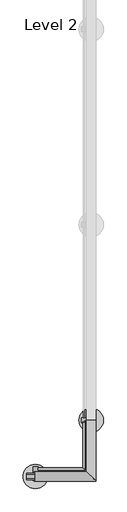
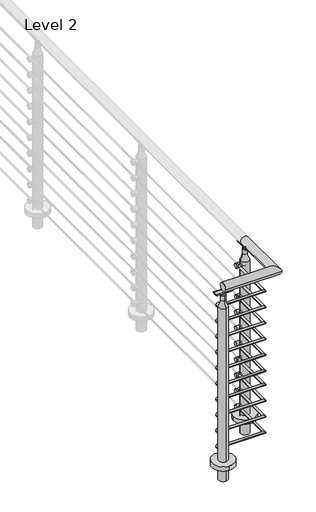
# One storey, part 8 of 21: 1 railing.
"""IFC4 building model written with IfcOpenShell, lengths in millimetres."""

from ifc_helpers import new_model, si_unit, point, frame, frame_2d, origin, place, context, project, spatial, polyline, circle_curve, ellipse_curve, trimmed, segment, composite_curve, outline, extrude, element, save
from ifc_brep_helpers import plane_surface, cylinder_surface, revolved_surface, advanced_brep

model = new_model("IFC4")

# Units and contexts
model_context = context("Model", 3, world=origin())
ifc_project = project(units=[si_unit("LENGTHUNIT", "METRE", prefix="MILLI")], contexts=[model_context])

# Site, building, storey
site = spatial("IfcSite", under=ifc_project)
building = spatial("IfcBuilding", under=site)
storey = spatial("IfcBuildingStorey", under=building, Name="Level 2", Elevation=3048.0)

# Railing
placement = place(None, origin())
element("IfcRailing", 1, ObjectType="VIVA-CIRCA-Multiline-Cable-Core Mount-Corner", at=placement, inside=storey, context=model_context, shape_type="SolidModel", body=[
    advanced_brep(
    [(70803.1810647, -68730.3034511, 4102.1), (70803.1810647, -68679.5034511, 4102.1), (71120.6810647, -68730.3034511, 4102.1), (71069.8810647, -68679.5034511, 4102.1), (71120.6810647, -68412.8034511, 4102.1), (71069.8810647, -68412.8034511, 4102.1)],
    [
        (0, 1, circle_curve(frame((70803.1810647, -68704.9034511, 4102.1), z_axis=(-1.0, 0.0, 0.0), x_axis=(0.0, 1.0, 0.0)), 25.4)),
        (1, 0, circle_curve(frame((70803.1810647, -68704.9034511, 4102.1), z_axis=(-1.0, 0.0, 0.0), x_axis=(0.0, 1.0, 0.0)), 25.4)),
        (0, 2),
        (2, 3, ellipse_curve(frame((71095.2810647, -68704.9034511, 4102.1), z_axis=(-0.7071067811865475, -0.7071067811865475, 0.0), x_axis=(-0.7071067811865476, 0.7071067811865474, 0.0)), 35.9210245, 25.4)),
        (3, 1),
        (3, 2, ellipse_curve(frame((71095.2810647, -68704.9034511, 4102.1), z_axis=(-0.7071067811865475, -0.7071067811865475, 0.0), x_axis=(-0.7071067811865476, 0.7071067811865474, 0.0)), 35.9210245, 25.4)),
        (4, 5, circle_curve(frame((71095.2810647, -68412.8034511, 4102.1), z_axis=(0.0, 1.0, 0.0), x_axis=(-1.0, 0.0, 0.0)), 25.4)),
        (5, 4, circle_curve(frame((71095.2810647, -68412.8034511, 4102.1), z_axis=(0.0, 1.0, 0.0), x_axis=(-1.0, 0.0, 0.0)), 25.4)),
        (2, 4),
        (5, 3),
    ],
    [
        plane_surface(frame((70803.1810647, -68704.9034511, 4127.5), z_axis=(-1.0, 0.0, 0.0), x_axis=(0.0, 1.0, 0.0))),
        cylinder_surface(frame((70803.1810647, -68704.9034511, 4102.1), z_axis=(-1.0, 0.0, 0.0), x_axis=(0.0, 1.0, 0.0)), 25.4),
        plane_surface(frame((71095.2810647, -68412.8034511, 4127.5), z_axis=(0.0, 1.0, 0.0), x_axis=(0.0, 0.0, 1.0))),
        cylinder_surface(frame((71095.2810647, -68704.9034511, 4102.1), z_axis=(0.0, -1.0, 0.0), x_axis=(-1.0, 0.0, 0.0)), 25.4),
    ],
    [
        (0, [[1, 2]]),
        (1, [[-1, 3, 4, 5]]),
        (1, [[-2, -5, 6, -3]]),
        (2, [[7, 8]]),
        (3, [[-4, 9, -8, 10]]),
        (3, [[-6, -10, -7, -9]]),
    ],
),
    advanced_brep(
    [(70803.1810647, -68660.4534511, 3968.75), (70803.1810647, -68673.1534511, 3968.75), (71050.8310647, -68660.4534511, 3968.75), (71063.5310647, -68673.1534511, 3968.75), (71050.8310647, -68412.8034511, 3968.75), (71063.5310647, -68412.8034511, 3968.75)],
    [
        (0, 1, circle_curve(frame((70803.1810647, -68666.8034511, 3968.75), z_axis=(-1.0, 0.0, 0.0), x_axis=(0.0, -1.0, 0.0)), 6.35)),
        (1, 0, circle_curve(frame((70803.1810647, -68666.8034511, 3968.75), z_axis=(-1.0, 0.0, 0.0), x_axis=(0.0, -1.0, 0.0)), 6.35)),
        (0, 2),
        (2, 3, ellipse_curve(frame((71057.1810647, -68666.8034511, 3968.75), z_axis=(-0.7071067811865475, -0.7071067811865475, 0.0), x_axis=(-0.7071067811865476, 0.7071067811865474, 0.0)), 8.9802561, 6.35)),
        (3, 1),
        (3, 2, ellipse_curve(frame((71057.1810647, -68666.8034511, 3968.75), z_axis=(-0.7071067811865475, -0.7071067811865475, 0.0), x_axis=(-0.7071067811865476, 0.7071067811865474, 0.0)), 8.9802561, 6.35)),
        (4, 5, circle_curve(frame((71057.1810647, -68412.8034511, 3968.75), z_axis=(0.0, 1.0, 0.0), x_axis=(1.0, 0.0, 0.0)), 6.35)),
        (5, 4, circle_curve(frame((71057.1810647, -68412.8034511, 3968.75), z_axis=(0.0, 1.0, 0.0), x_axis=(1.0, 0.0, 0.0)), 6.35)),
        (2, 4),
        (5, 3),
    ],
    [
        plane_surface(frame((70803.1810647, -68666.8034511, 3975.1), z_axis=(-1.0, 0.0, 0.0), x_axis=(0.0, 1.0, 0.0))),
        cylinder_surface(frame((70803.1810647, -68666.8034511, 3968.75), z_axis=(-1.0, 0.0, 0.0), x_axis=(0.0, -1.0, 0.0)), 6.35),
        plane_surface(frame((71057.1810647, -68412.8034511, 3975.1), z_axis=(0.0, 1.0, 0.0), x_axis=(0.0, 0.0, 1.0))),
        cylinder_surface(frame((71057.1810647, -68666.8034511, 3968.75), z_axis=(0.0, -1.0, 0.0), x_axis=(1.0, 0.0, 0.0)), 6.35),
    ],
    [
        (0, [[1, 2]]),
        (1, [[-1, 3, 4, 5]]),
        (1, [[-2, -5, 6, -3]]),
        (2, [[7, 8]]),
        (3, [[-4, 9, -8, 10]]),
        (3, [[-6, -10, -7, -9]]),
    ],
),
    advanced_brep(
    [(70803.1810647, -68660.4534511, 3873.5), (70803.1810647, -68673.1534511, 3873.5), (71050.8310647, -68660.4534511, 3873.5), (71063.5310647, -68673.1534511, 3873.5), (71050.8310647, -68412.8034511, 3873.5), (71063.5310647, -68412.8034511, 3873.5)],
    [
        (0, 1, circle_curve(frame((70803.1810647, -68666.8034511, 3873.5), z_axis=(-1.0, 0.0, 0.0), x_axis=(0.0, -1.0, 0.0)), 6.35)),
        (1, 0, circle_curve(frame((70803.1810647, -68666.8034511, 3873.5), z_axis=(-1.0, 0.0, 0.0), x_axis=(0.0, -1.0, 0.0)), 6.35)),
        (0, 2),
        (2, 3, ellipse_curve(frame((71057.1810647, -68666.8034511, 3873.5), z_axis=(-0.7071067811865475, -0.7071067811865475, 0.0), x_axis=(-0.7071067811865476, 0.7071067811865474, 0.0)), 8.9802561, 6.35)),
        (3, 1),
        (3, 2, ellipse_curve(frame((71057.1810647, -68666.8034511, 3873.5), z_axis=(-0.7071067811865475, -0.7071067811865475, 0.0), x_axis=(-0.7071067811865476, 0.7071067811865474, 0.0)), 8.9802561, 6.35)),
        (4, 5, circle_curve(frame((71057.1810647, -68412.8034511, 3873.5), z_axis=(0.0, 1.0, 0.0), x_axis=(1.0, 0.0, 0.0)), 6.35)),
        (5, 4, circle_curve(frame((71057.1810647, -68412.8034511, 3873.5), z_axis=(0.0, 1.0, 0.0), x_axis=(1.0, 0.0, 0.0)), 6.35)),
        (2, 4),
        (5, 3),
    ],
    [
        plane_surface(frame((70803.1810647, -68666.8034511, 3879.85), z_axis=(-1.0, 0.0, 0.0), x_axis=(0.0, 1.0, 0.0))),
        cylinder_surface(frame((70803.1810647, -68666.8034511, 3873.5), z_axis=(-1.0, 0.0, 0.0), x_axis=(0.0, -1.0, 0.0)), 6.35),
        plane_surface(frame((71057.1810647, -68412.8034511, 3879.85), z_axis=(0.0, 1.0, 0.0), x_axis=(0.0, 0.0, 1.0))),
        cylinder_surface(frame((71057.1810647, -68666.8034511, 3873.5), z_axis=(0.0, -1.0, 0.0), x_axis=(1.0, 0.0, 0.0)), 6.35),
    ],
    [
        (0, [[1, 2]]),
        (1, [[-1, 3, 4, 5]]),
        (1, [[-2, -5, 6, -3]]),
        (2, [[7, 8]]),
        (3, [[-4, 9, -8, 10]]),
        (3, [[-6, -10, -7, -9]]),
    ],
),
    advanced_brep(
    [(70803.1810647, -68660.4534511, 3778.25), (70803.1810647, -68673.1534511, 3778.25), (71050.8310647, -68660.4534511, 3778.25), (71063.5310647, -68673.1534511, 3778.25), (71050.8310647, -68412.8034511, 3778.25), (71063.5310647, -68412.8034511, 3778.25)],
    [
        (0, 1, circle_curve(frame((70803.1810647, -68666.8034511, 3778.25), z_axis=(-1.0, 0.0, 0.0), x_axis=(0.0, -1.0, 0.0)), 6.35)),
        (1, 0, circle_curve(frame((70803.1810647, -68666.8034511, 3778.25), z_axis=(-1.0, 0.0, 0.0), x_axis=(0.0, -1.0, 0.0)), 6.35)),
        (0, 2),
        (2, 3, ellipse_curve(frame((71057.1810647, -68666.8034511, 3778.25), z_axis=(-0.7071067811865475, -0.7071067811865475, 0.0), x_axis=(-0.7071067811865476, 0.7071067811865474, 0.0)), 8.9802561, 6.35)),
        (3, 1),
        (3, 2, ellipse_curve(frame((71057.1810647, -68666.8034511, 3778.25), z_axis=(-0.7071067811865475, -0.7071067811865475, 0.0), x_axis=(-0.7071067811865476, 0.7071067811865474, 0.0)), 8.9802561, 6.35)),
        (4, 5, circle_curve(frame((71057.1810647, -68412.8034511, 3778.25), z_axis=(0.0, 1.0, 0.0), x_axis=(1.0, 0.0, 0.0)), 6.35)),
        (5, 4, circle_curve(frame((71057.1810647, -68412.8034511, 3778.25), z_axis=(0.0, 1.0, 0.0), x_axis=(1.0, 0.0, 0.0)), 6.35)),
        (2, 4),
        (5, 3),
    ],
    [
        plane_surface(frame((70803.1810647, -68666.8034511, 3784.6), z_axis=(-1.0, 0.0, 0.0), x_axis=(0.0, 1.0, 0.0))),
        cylinder_surface(frame((70803.1810647, -68666.8034511, 3778.25), z_axis=(-1.0, 0.0, 0.0), x_axis=(0.0, -1.0, 0.0)), 6.35),
        plane_surface(frame((71057.1810647, -68412.8034511, 3784.6), z_axis=(0.0, 1.0, 0.0), x_axis=(0.0, 0.0, 1.0))),
        cylinder_surface(frame((71057.1810647, -68666.8034511, 3778.25), z_axis=(0.0, -1.0, 0.0), x_axis=(1.0, 0.0, 0.0)), 6.35),
    ],
    [
        (0, [[1, 2]]),
        (1, [[-1, 3, 4, 5]]),
        (1, [[-2, -5, 6, -3]]),
        (2, [[7, 8]]),
        (3, [[-4, 9, -8, 10]]),
        (3, [[-6, -10, -7, -9]]),
    ],
),
    advanced_brep(
    [(70803.1810647, -68660.4534511, 3683.0), (70803.1810647, -68673.1534511, 3683.0), (71050.8310647, -68660.4534511, 3683.0), (71063.5310647, -68673.1534511, 3683.0), (71050.8310647, -68412.8034511, 3683.0), (71063.5310647, -68412.8034511, 3683.0)],
    [
        (0, 1, circle_curve(frame((70803.1810647, -68666.8034511, 3683.0), z_axis=(-1.0, 0.0, 0.0), x_axis=(0.0, -1.0, 0.0)), 6.35)),
        (1, 0, circle_curve(frame((70803.1810647, -68666.8034511, 3683.0), z_axis=(-1.0, 0.0, 0.0), x_axis=(0.0, -1.0, 0.0)), 6.35)),
        (0, 2),
        (2, 3, ellipse_curve(frame((71057.1810647, -68666.8034511, 3683.0), z_axis=(-0.7071067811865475, -0.7071067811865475, 0.0), x_axis=(-0.7071067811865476, 0.7071067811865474, 0.0)), 8.9802561, 6.35)),
        (3, 1),
        (3, 2, ellipse_curve(frame((71057.1810647, -68666.8034511, 3683.0), z_axis=(-0.7071067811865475, -0.7071067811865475, 0.0), x_axis=(-0.7071067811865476, 0.7071067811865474, 0.0)), 8.9802561, 6.35)),
        (4, 5, circle_curve(frame((71057.1810647, -68412.8034511, 3683.0), z_axis=(0.0, 1.0, 0.0), x_axis=(1.0, 0.0, 0.0)), 6.35)),
        (5, 4, circle_curve(frame((71057.1810647, -68412.8034511, 3683.0), z_axis=(0.0, 1.0, 0.0), x_axis=(1.0, 0.0, 0.0)), 6.35)),
        (2, 4),
        (5, 3),
    ],
    [
        plane_surface(frame((70803.1810647, -68666.8034511, 3689.35), z_axis=(-1.0, 0.0, 0.0), x_axis=(0.0, 1.0, 0.0))),
        cylinder_surface(frame((70803.1810647, -68666.8034511, 3683.0), z_axis=(-1.0, 0.0, 0.0), x_axis=(0.0, -1.0, 0.0)), 6.35),
        plane_surface(frame((71057.1810647, -68412.8034511, 3689.35), z_axis=(0.0, 1.0, 0.0), x_axis=(0.0, 0.0, 1.0))),
        cylinder_surface(frame((71057.1810647, -68666.8034511, 3683.0), z_axis=(0.0, -1.0, 0.0), x_axis=(1.0, 0.0, 0.0)), 6.35),
    ],
    [
        (0, [[1, 2]]),
        (1, [[-1, 3, 4, 5]]),
        (1, [[-2, -5, 6, -3]]),
        (2, [[7, 8]]),
        (3, [[-4, 9, -8, 10]]),
        (3, [[-6, -10, -7, -9]]),
    ],
),
    advanced_brep(
    [(70803.1810647, -68660.4534511, 3587.75), (70803.1810647, -68673.1534511, 3587.75), (71050.8310647, -68660.4534511, 3587.75), (71063.5310647, -68673.1534511, 3587.75), (71050.8310647, -68412.8034511, 3587.75), (71063.5310647, -68412.8034511, 3587.75)],
    [
        (0, 1, circle_curve(frame((70803.1810647, -68666.8034511, 3587.75), z_axis=(-1.0, 0.0, 0.0), x_axis=(0.0, -1.0, 0.0)), 6.35)),
        (1, 0, circle_curve(frame((70803.1810647, -68666.8034511, 3587.75), z_axis=(-1.0, 0.0, 0.0), x_axis=(0.0, -1.0, 0.0)), 6.35)),
        (0, 2),
        (2, 3, ellipse_curve(frame((71057.1810647, -68666.8034511, 3587.75), z_axis=(-0.7071067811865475, -0.7071067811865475, 0.0), x_axis=(-0.7071067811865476, 0.7071067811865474, 0.0)), 8.9802561, 6.35)),
        (3, 1),
        (3, 2, ellipse_curve(frame((71057.1810647, -68666.8034511, 3587.75), z_axis=(-0.7071067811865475, -0.7071067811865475, 0.0), x_axis=(-0.7071067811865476, 0.7071067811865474, 0.0)), 8.9802561, 6.35)),
        (4, 5, circle_curve(frame((71057.1810647, -68412.8034511, 3587.75), z_axis=(0.0, 1.0, 0.0), x_axis=(1.0, 0.0, 0.0)), 6.35)),
        (5, 4, circle_curve(frame((71057.1810647, -68412.8034511, 3587.75), z_axis=(0.0, 1.0, 0.0), x_axis=(1.0, 0.0, 0.0)), 6.35)),
        (2, 4),
        (5, 3),
    ],
    [
        plane_surface(frame((70803.1810647, -68666.8034511, 3594.1), z_axis=(-1.0, 0.0, 0.0), x_axis=(0.0, 1.0, 0.0))),
        cylinder_surface(frame((70803.1810647, -68666.8034511, 3587.75), z_axis=(-1.0, 0.0, 0.0), x_axis=(0.0, -1.0, 0.0)), 6.35),
        plane_surface(frame((71057.1810647, -68412.8034511, 3594.1), z_axis=(0.0, 1.0, 0.0), x_axis=(0.0, 0.0, 1.0))),
        cylinder_surface(frame((71057.1810647, -68666.8034511, 3587.75), z_axis=(0.0, -1.0, 0.0), x_axis=(1.0, 0.0, 0.0)), 6.35),
    ],
    [
        (0, [[1, 2]]),
        (1, [[-1, 3, 4, 5]]),
        (1, [[-2, -5, 6, -3]]),
        (2, [[7, 8]]),
        (3, [[-4, 9, -8, 10]]),
        (3, [[-6, -10, -7, -9]]),
    ],
),
    advanced_brep(
    [(70803.1810647, -68660.4534511, 3492.5), (70803.1810647, -68673.1534511, 3492.5), (71050.8310647, -68660.4534511, 3492.5), (71063.5310647, -68673.1534511, 3492.5), (71050.8310647, -68412.8034511, 3492.5), (71063.5310647, -68412.8034511, 3492.5)],
    [
        (0, 1, circle_curve(frame((70803.1810647, -68666.8034511, 3492.5), z_axis=(-1.0, 0.0, 0.0), x_axis=(0.0, -1.0, 0.0)), 6.35)),
        (1, 0, circle_curve(frame((70803.1810647, -68666.8034511, 3492.5), z_axis=(-1.0, 0.0, 0.0), x_axis=(0.0, -1.0, 0.0)), 6.35)),
        (0, 2),
        (2, 3, ellipse_curve(frame((71057.1810647, -68666.8034511, 3492.5), z_axis=(-0.7071067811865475, -0.7071067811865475, 0.0), x_axis=(-0.7071067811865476, 0.7071067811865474, 0.0)), 8.9802561, 6.35)),
        (3, 1),
        (3, 2, ellipse_curve(frame((71057.1810647, -68666.8034511, 3492.5), z_axis=(-0.7071067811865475, -0.7071067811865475, 0.0), x_axis=(-0.7071067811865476, 0.7071067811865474, 0.0)), 8.9802561, 6.35)),
        (4, 5, circle_curve(frame((71057.1810647, -68412.8034511, 3492.5), z_axis=(0.0, 1.0, 0.0), x_axis=(1.0, 0.0, 0.0)), 6.35)),
        (5, 4, circle_curve(frame((71057.1810647, -68412.8034511, 3492.5), z_axis=(0.0, 1.0, 0.0), x_axis=(1.0, 0.0, 0.0)), 6.35)),
        (2, 4),
        (5, 3),
    ],
    [
        plane_surface(frame((70803.1810647, -68666.8034511, 3498.85), z_axis=(-1.0, 0.0, 0.0), x_axis=(0.0, 1.0, 0.0))),
        cylinder_surface(frame((70803.1810647, -68666.8034511, 3492.5), z_axis=(-1.0, 0.0, 0.0), x_axis=(0.0, -1.0, 0.0)), 6.35),
        plane_surface(frame((71057.1810647, -68412.8034511, 3498.85), z_axis=(0.0, 1.0, 0.0), x_axis=(0.0, 0.0, 1.0))),
        cylinder_surface(frame((71057.1810647, -68666.8034511, 3492.5), z_axis=(0.0, -1.0, 0.0), x_axis=(1.0, 0.0, 0.0)), 6.35),
    ],
    [
        (0, [[1, 2]]),
        (1, [[-1, 3, 4, 5]]),
        (1, [[-2, -5, 6, -3]]),
        (2, [[7, 8]]),
        (3, [[-4, 9, -8, 10]]),
        (3, [[-6, -10, -7, -9]]),
    ],
),
    advanced_brep(
    [(70803.1810647, -68660.4534511, 3409.95), (70803.1810647, -68673.1534511, 3409.95), (71050.8310647, -68660.4534511, 3409.95), (71063.5310647, -68673.1534511, 3409.95), (71050.8310647, -68412.8034511, 3409.95), (71063.5310647, -68412.8034511, 3409.95)],
    [
        (0, 1, circle_curve(frame((70803.1810647, -68666.8034511, 3409.95), z_axis=(-1.0, 0.0, 0.0), x_axis=(0.0, -1.0, 0.0)), 6.35)),
        (1, 0, circle_curve(frame((70803.1810647, -68666.8034511, 3409.95), z_axis=(-1.0, 0.0, 0.0), x_axis=(0.0, -1.0, 0.0)), 6.35)),
        (0, 2),
        (2, 3, ellipse_curve(frame((71057.1810647, -68666.8034511, 3409.95), z_axis=(-0.7071067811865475, -0.7071067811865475, 0.0), x_axis=(-0.7071067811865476, 0.7071067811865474, 0.0)), 8.9802561, 6.35)),
        (3, 1),
        (3, 2, ellipse_curve(frame((71057.1810647, -68666.8034511, 3409.95), z_axis=(-0.7071067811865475, -0.7071067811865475, 0.0), x_axis=(-0.7071067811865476, 0.7071067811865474, 0.0)), 8.9802561, 6.35)),
        (4, 5, circle_curve(frame((71057.1810647, -68412.8034511, 3409.95), z_axis=(0.0, 1.0, 0.0), x_axis=(1.0, 0.0, 0.0)), 6.35)),
        (5, 4, circle_curve(frame((71057.1810647, -68412.8034511, 3409.95), z_axis=(0.0, 1.0, 0.0), x_axis=(1.0, 0.0, 0.0)), 6.35)),
        (2, 4),
        (5, 3),
    ],
    [
        plane_surface(frame((70803.1810647, -68666.8034511, 3416.3), z_axis=(-1.0, 0.0, 0.0), x_axis=(0.0, 1.0, 0.0))),
        cylinder_surface(frame((70803.1810647, -68666.8034511, 3409.95), z_axis=(-1.0, 0.0, 0.0), x_axis=(0.0, -1.0, 0.0)), 6.35),
        plane_surface(frame((71057.1810647, -68412.8034511, 3416.3), z_axis=(0.0, 1.0, 0.0), x_axis=(0.0, 0.0, 1.0))),
        cylinder_surface(frame((71057.1810647, -68666.8034511, 3409.95), z_axis=(0.0, -1.0, 0.0), x_axis=(1.0, 0.0, 0.0)), 6.35),
    ],
    [
        (0, [[1, 2]]),
        (1, [[-1, 3, 4, 5]]),
        (1, [[-2, -5, 6, -3]]),
        (2, [[7, 8]]),
        (3, [[-4, 9, -8, 10]]),
        (3, [[-6, -10, -7, -9]]),
    ],
),
    advanced_brep(
    [(70803.1810647, -68660.4534511, 3314.7), (70803.1810647, -68673.1534511, 3314.7), (71050.8310647, -68660.4534511, 3314.7), (71063.5310647, -68673.1534511, 3314.7), (71050.8310647, -68412.8034511, 3314.7), (71063.5310647, -68412.8034511, 3314.7)],
    [
        (0, 1, circle_curve(frame((70803.1810647, -68666.8034511, 3314.7), z_axis=(-1.0, 0.0, 0.0), x_axis=(0.0, -1.0, 0.0)), 6.35)),
        (1, 0, circle_curve(frame((70803.1810647, -68666.8034511, 3314.7), z_axis=(-1.0, 0.0, 0.0), x_axis=(0.0, -1.0, 0.0)), 6.35)),
        (0, 2),
        (2, 3, ellipse_curve(frame((71057.1810647, -68666.8034511, 3314.7), z_axis=(-0.7071067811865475, -0.7071067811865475, 0.0), x_axis=(-0.7071067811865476, 0.7071067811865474, 0.0)), 8.9802561, 6.35)),
        (3, 1),
        (3, 2, ellipse_curve(frame((71057.1810647, -68666.8034511, 3314.7), z_axis=(-0.7071067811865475, -0.7071067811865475, 0.0), x_axis=(-0.7071067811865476, 0.7071067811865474, 0.0)), 8.9802561, 6.35)),
        (4, 5, circle_curve(frame((71057.1810647, -68412.8034511, 3314.7), z_axis=(0.0, 1.0, 0.0), x_axis=(1.0, 0.0, 0.0)), 6.35)),
        (5, 4, circle_curve(frame((71057.1810647, -68412.8034511, 3314.7), z_axis=(0.0, 1.0, 0.0), x_axis=(1.0, 0.0, 0.0)), 6.35)),
        (2, 4),
        (5, 3),
    ],
    [
        plane_surface(frame((70803.1810647, -68666.8034511, 3321.05), z_axis=(-1.0, 0.0, 0.0), x_axis=(0.0, 1.0, 0.0))),
        cylinder_surface(frame((70803.1810647, -68666.8034511, 3314.7), z_axis=(-1.0, 0.0, 0.0), x_axis=(0.0, -1.0, 0.0)), 6.35),
        plane_surface(frame((71057.1810647, -68412.8034511, 3321.05), z_axis=(0.0, 1.0, 0.0), x_axis=(0.0, 0.0, 1.0))),
        cylinder_surface(frame((71057.1810647, -68666.8034511, 3314.7), z_axis=(0.0, -1.0, 0.0), x_axis=(1.0, 0.0, 0.0)), 6.35),
    ],
    [
        (0, [[1, 2]]),
        (1, [[-1, 3, 4, 5]]),
        (1, [[-2, -5, 6, -3]]),
        (2, [[7, 8]]),
        (3, [[-4, 9, -8, 10]]),
        (3, [[-6, -10, -7, -9]]),
    ],
),
    advanced_brep(
    [(70803.1810647, -68660.4534511, 3219.45), (70803.1810647, -68673.1534511, 3219.45), (71050.8310647, -68660.4534511, 3219.45), (71063.5310647, -68673.1534511, 3219.45), (71050.8310647, -68412.8034511, 3219.45), (71063.5310647, -68412.8034511, 3219.45)],
    [
        (0, 1, circle_curve(frame((70803.1810647, -68666.8034511, 3219.45), z_axis=(-1.0, 0.0, 0.0), x_axis=(0.0, -1.0, 0.0)), 6.35)),
        (1, 0, circle_curve(frame((70803.1810647, -68666.8034511, 3219.45), z_axis=(-1.0, 0.0, 0.0), x_axis=(0.0, -1.0, 0.0)), 6.35)),
        (0, 2),
        (2, 3, ellipse_curve(frame((71057.1810647, -68666.8034511, 3219.45), z_axis=(-0.7071067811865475, -0.7071067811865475, 0.0), x_axis=(-0.7071067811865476, 0.7071067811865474, 0.0)), 8.9802561, 6.35)),
        (3, 1),
        (3, 2, ellipse_curve(frame((71057.1810647, -68666.8034511, 3219.45), z_axis=(-0.7071067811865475, -0.7071067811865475, 0.0), x_axis=(-0.7071067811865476, 0.7071067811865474, 0.0)), 8.9802561, 6.35)),
        (4, 5, circle_curve(frame((71057.1810647, -68412.8034511, 3219.45), z_axis=(0.0, 1.0, 0.0), x_axis=(1.0, 0.0, 0.0)), 6.35)),
        (5, 4, circle_curve(frame((71057.1810647, -68412.8034511, 3219.45), z_axis=(0.0, 1.0, 0.0), x_axis=(1.0, 0.0, 0.0)), 6.35)),
        (2, 4),
        (5, 3),
    ],
    [
        plane_surface(frame((70803.1810647, -68666.8034511, 3225.8), z_axis=(-1.0, 0.0, 0.0), x_axis=(0.0, 1.0, 0.0))),
        cylinder_surface(frame((70803.1810647, -68666.8034511, 3219.45), z_axis=(-1.0, 0.0, 0.0), x_axis=(0.0, -1.0, 0.0)), 6.35),
        plane_surface(frame((71057.1810647, -68412.8034511, 3225.8), z_axis=(0.0, 1.0, 0.0), x_axis=(0.0, 0.0, 1.0))),
        cylinder_surface(frame((71057.1810647, -68666.8034511, 3219.45), z_axis=(0.0, -1.0, 0.0), x_axis=(1.0, 0.0, 0.0)), 6.35),
    ],
    [
        (0, [[1, 2]]),
        (1, [[-1, 3, 4, 5]]),
        (1, [[-2, -5, 6, -3]]),
        (2, [[7, 8]]),
        (3, [[-4, 9, -8, 10]]),
        (3, [[-6, -10, -7, -9]]),
    ],
),
    advanced_brep(
    [(70803.1810647, -68660.4534511, 3124.2), (70803.1810647, -68673.1534511, 3124.2), (71050.8310647, -68660.4534511, 3124.2), (71063.5310647, -68673.1534511, 3124.2), (71050.8310647, -68412.8034511, 3124.2), (71063.5310647, -68412.8034511, 3124.2)],
    [
        (0, 1, circle_curve(frame((70803.1810647, -68666.8034511, 3124.2), z_axis=(-1.0, 0.0, 0.0), x_axis=(0.0, -1.0, 0.0)), 6.35)),
        (1, 0, circle_curve(frame((70803.1810647, -68666.8034511, 3124.2), z_axis=(-1.0, 0.0, 0.0), x_axis=(0.0, -1.0, 0.0)), 6.35)),
        (0, 2),
        (2, 3, ellipse_curve(frame((71057.1810647, -68666.8034511, 3124.2), z_axis=(-0.7071067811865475, -0.7071067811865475, 0.0), x_axis=(-0.7071067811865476, 0.7071067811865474, 0.0)), 8.9802561, 6.35)),
        (3, 1),
        (3, 2, ellipse_curve(frame((71057.1810647, -68666.8034511, 3124.2), z_axis=(-0.7071067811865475, -0.7071067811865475, 0.0), x_axis=(-0.7071067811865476, 0.7071067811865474, 0.0)), 8.9802561, 6.35)),
        (4, 5, circle_curve(frame((71057.1810647, -68412.8034511, 3124.2), z_axis=(0.0, 1.0, 0.0), x_axis=(1.0, 0.0, 0.0)), 6.35)),
        (5, 4, circle_curve(frame((71057.1810647, -68412.8034511, 3124.2), z_axis=(0.0, 1.0, 0.0), x_axis=(1.0, 0.0, 0.0)), 6.35)),
        (2, 4),
        (5, 3),
    ],
    [
        plane_surface(frame((70803.1810647, -68666.8034511, 3130.55), z_axis=(-1.0, 0.0, 0.0), x_axis=(0.0, 1.0, 0.0))),
        cylinder_surface(frame((70803.1810647, -68666.8034511, 3124.2), z_axis=(-1.0, 0.0, 0.0), x_axis=(0.0, -1.0, 0.0)), 6.35),
        plane_surface(frame((71057.1810647, -68412.8034511, 3130.55), z_axis=(0.0, 1.0, 0.0), x_axis=(0.0, 0.0, 1.0))),
        cylinder_surface(frame((71057.1810647, -68666.8034511, 3124.2), z_axis=(0.0, -1.0, 0.0), x_axis=(1.0, 0.0, 0.0)), 6.35),
    ],
    [
        (0, [[1, 2]]),
        (1, [[-1, 3, 4, 5]]),
        (1, [[-2, -5, 6, -3]]),
        (2, [[7, 8]]),
        (3, [[-4, 9, -8, 10]]),
        (3, [[-6, -10, -7, -9]]),
    ],
),
    extrude(outline(composite_curve([segment(trimmed(circle_curve(frame_2d((71095.2810647, -68412.4065761)), 63.5), [point((71158.7810647, -68412.4065761))], [point((71031.7810647, -68412.4065761))], False, "CARTESIAN"), True, "CONTINUOUS"), segment(trimmed(circle_curve(frame_2d((71095.2810647, -68412.4065761)), 63.5), [point((71031.7810647, -68412.4065761))], [point((71158.7810647, -68412.4065761))], False, "CARTESIAN"), True, "CONTINUOUS")], self_intersect=False)), frame((0.0, 0.0, 3048.0), z_axis=(0.0, 0.0, 1.0), x_axis=(1.0, 0.0, 0.0)), (0.0, 0.0, 1.0), 25.4),
    extrude(outline(composite_curve([segment(trimmed(circle_curve(frame_2d((-68412.0097011, 3124.2)), 12.666458), [point((-68399.3432432, 3124.2))], [point((-68424.6761591, 3124.2))], False, "CARTESIAN"), True, "CONTINUOUS"), segment(trimmed(circle_curve(frame_2d((-68412.0097011, 3124.2)), 12.666458), [point((-68424.6761591, 3124.2))], [point((-68399.3432432, 3124.2))], False, "CARTESIAN"), True, "CONTINUOUS")], self_intersect=False)), frame((71044.4810647, 0.0, 0.0), z_axis=(1.0, 0.0, 0.0), x_axis=(0.0, 1.0, 0.0)), (0.0, 0.0, 1.0), 50.8),
    extrude(outline(composite_curve([segment(trimmed(circle_curve(frame_2d((-68412.0097011, 3218.0388889)), 12.666458), [point((-68399.3432432, 3218.0388889))], [point((-68424.6761591, 3218.0388889))], False, "CARTESIAN"), True, "CONTINUOUS"), segment(trimmed(circle_curve(frame_2d((-68412.0097011, 3218.0388889)), 12.666458), [point((-68424.6761591, 3218.0388889))], [point((-68399.3432432, 3218.0388889))], False, "CARTESIAN"), True, "CONTINUOUS")], self_intersect=False)), frame((71044.4810647, 0.0, 0.0), z_axis=(1.0, 0.0, 0.0), x_axis=(0.0, 1.0, 0.0)), (0.0, 0.0, 1.0), 50.8),
    extrude(outline(composite_curve([segment(trimmed(circle_curve(frame_2d((-68412.0097011, 3311.8777778)), 12.666458), [point((-68399.3432432, 3311.8777778))], [point((-68424.6761591, 3311.8777778))], False, "CARTESIAN"), True, "CONTINUOUS"), segment(trimmed(circle_curve(frame_2d((-68412.0097011, 3311.8777778)), 12.666458), [point((-68424.6761591, 3311.8777778))], [point((-68399.3432432, 3311.8777778))], False, "CARTESIAN"), True, "CONTINUOUS")], self_intersect=False)), frame((71044.4810647, 0.0, 0.0), z_axis=(1.0, 0.0, 0.0), x_axis=(0.0, 1.0, 0.0)), (0.0, 0.0, 1.0), 50.8),
    extrude(outline(composite_curve([segment(trimmed(circle_curve(frame_2d((-68412.0097011, 3405.7166667)), 12.666458), [point((-68399.3432432, 3405.7166667))], [point((-68424.6761591, 3405.7166667))], False, "CARTESIAN"), True, "CONTINUOUS"), segment(trimmed(circle_curve(frame_2d((-68412.0097011, 3405.7166667)), 12.666458), [point((-68424.6761591, 3405.7166667))], [point((-68399.3432432, 3405.7166667))], False, "CARTESIAN"), True, "CONTINUOUS")], self_intersect=False)), frame((71044.4810647, 0.0, 0.0), z_axis=(1.0, 0.0, 0.0), x_axis=(0.0, 1.0, 0.0)), (0.0, 0.0, 1.0), 50.8),
    extrude(outline(composite_curve([segment(trimmed(circle_curve(frame_2d((-68412.0097011, 3499.5555556)), 12.666458), [point((-68399.3432432, 3499.5555556))], [point((-68424.6761591, 3499.5555556))], False, "CARTESIAN"), True, "CONTINUOUS"), segment(trimmed(circle_curve(frame_2d((-68412.0097011, 3499.5555556)), 12.666458), [point((-68424.6761591, 3499.5555556))], [point((-68399.3432432, 3499.5555556))], False, "CARTESIAN"), True, "CONTINUOUS")], self_intersect=False)), frame((71044.4810647, 0.0, 0.0), z_axis=(1.0, 0.0, 0.0), x_axis=(0.0, 1.0, 0.0)), (0.0, 0.0, 1.0), 50.8),
    extrude(outline(composite_curve([segment(trimmed(circle_curve(frame_2d((-68412.0097011, 3593.3944444)), 12.666458), [point((-68399.3432432, 3593.3944444))], [point((-68424.6761591, 3593.3944444))], False, "CARTESIAN"), True, "CONTINUOUS"), segment(trimmed(circle_curve(frame_2d((-68412.0097011, 3593.3944444)), 12.666458), [point((-68424.6761591, 3593.3944444))], [point((-68399.3432432, 3593.3944444))], False, "CARTESIAN"), True, "CONTINUOUS")], self_intersect=False)), frame((71044.4810647, 0.0, 0.0), z_axis=(1.0, 0.0, 0.0), x_axis=(0.0, 1.0, 0.0)), (0.0, 0.0, 1.0), 50.8),
    extrude(outline(composite_curve([segment(trimmed(circle_curve(frame_2d((-68412.0097011, 3687.2333333)), 12.666458), [point((-68399.3432432, 3687.2333333))], [point((-68424.6761591, 3687.2333333))], False, "CARTESIAN"), True, "CONTINUOUS"), segment(trimmed(circle_curve(frame_2d((-68412.0097011, 3687.2333333)), 12.666458), [point((-68424.6761591, 3687.2333333))], [point((-68399.3432432, 3687.2333333))], False, "CARTESIAN"), True, "CONTINUOUS")], self_intersect=False)), frame((71044.4810647, 0.0, 0.0), z_axis=(1.0, 0.0, 0.0), x_axis=(0.0, 1.0, 0.0)), (0.0, 0.0, 1.0), 50.8),
    extrude(outline(composite_curve([segment(trimmed(circle_curve(frame_2d((-68412.0097011, 3781.0722222)), 12.666458), [point((-68399.3432432, 3781.0722222))], [point((-68424.6761591, 3781.0722222))], False, "CARTESIAN"), True, "CONTINUOUS"), segment(trimmed(circle_curve(frame_2d((-68412.0097011, 3781.0722222)), 12.666458), [point((-68424.6761591, 3781.0722222))], [point((-68399.3432432, 3781.0722222))], False, "CARTESIAN"), True, "CONTINUOUS")], self_intersect=False)), frame((71044.4810647, 0.0, 0.0), z_axis=(1.0, 0.0, 0.0), x_axis=(0.0, 1.0, 0.0)), (0.0, 0.0, 1.0), 50.8),
    extrude(outline(composite_curve([segment(trimmed(circle_curve(frame_2d((-68412.0097011, 3968.75)), 12.666458), [point((-68399.3432432, 3968.75))], [point((-68424.6761591, 3968.75))], False, "CARTESIAN"), True, "CONTINUOUS"), segment(trimmed(circle_curve(frame_2d((-68412.0097011, 3968.75)), 12.666458), [point((-68424.6761591, 3968.75))], [point((-68399.3432432, 3968.75))], False, "CARTESIAN"), True, "CONTINUOUS")], self_intersect=False)), frame((71044.4810647, 0.0, 0.0), z_axis=(1.0, 0.0, 0.0), x_axis=(0.0, 1.0, 0.0)), (0.0, 0.0, 1.0), 50.8),
    extrude(outline(composite_curve([segment(trimmed(circle_curve(frame_2d((-68412.0097011, 3874.9111111)), 12.666458), [point((-68399.3432432, 3874.9111111))], [point((-68424.6761591, 3874.9111111))], False, "CARTESIAN"), True, "CONTINUOUS"), segment(trimmed(circle_curve(frame_2d((-68412.0097011, 3874.9111111)), 12.666458), [point((-68424.6761591, 3874.9111111))], [point((-68399.3432432, 3874.9111111))], False, "CARTESIAN"), True, "CONTINUOUS")], self_intersect=False)), frame((71044.4810647, 0.0, 0.0), z_axis=(1.0, 0.0, 0.0), x_axis=(0.0, 1.0, 0.0)), (0.0, 0.0, 1.0), 50.8),
    extrude(outline(composite_curve([segment(trimmed(circle_curve(frame_2d((4103.4254922, 71095.1843364)), 25.4345159), [point((4081.3106679, 71107.7481393))], [point((4081.2157471, 71082.7891026))], True, "CARTESIAN"), True, "CONTINUOUS"), segment(trimmed(circle_curve(frame_2d((4078.7132623, 71081.5444495)), 2.7949225), [point((4081.2157471, 71082.7891026))], [point((4076.3406769, 71080.0671444))], False, "CARTESIAN"), True, "CONTINUOUS"), segment(trimmed(circle_curve(frame_2d((4104.1881188, 71095.3177994)), 31.75), [point((4076.3406769, 71080.0671444))], [point((4076.9214354, 71111.5840367))], False, "CARTESIAN"), True, "CONTINUOUS"), segment(trimmed(circle_curve(frame_2d((4078.7923545, 71109.2956969)), 2.9558141), [point((4076.9214354, 71111.5840367))], [point((4081.3106679, 71107.7481393))], False, "CARTESIAN"), True, "CONTINUOUS")], self_intersect=False)), frame((0.0, -68457.6439761, 0.0), z_axis=(0.0, 1.0, 0.0), x_axis=(0.0, 0.0, 1.0)), (0.0, 0.0, 1.0), 90.4748),
    advanced_brep(
    [(71092.7410647, -68385.3386612, 4072.6506908), (71092.7410647, -68399.7065761, 4058.282776), (71092.7410647, -68425.1065761, 4058.282776), (71092.7410647, -68439.474491, 4072.6506908), (71097.8210647, -68385.3386612, 4072.6506908), (71097.8210647, -68439.474491, 4072.6506908), (71097.8210647, -68425.1065761, 4058.282776), (71097.8210647, -68399.7065761, 4058.282776)],
    [
        (0, 1, circle_curve(frame((71092.7410647, -68385.3386612, 4058.282776), z_axis=(1.0, 0.0, 0.0), x_axis=(0.0, -1.0, 0.0)), 14.3679149)),
        (1, 2, circle_curve(frame((71092.7410647, -68412.4065761, 4058.282776), z_axis=(-1.0, 0.0, 0.0), x_axis=(0.0, -1.0, 0.0)), 12.7)),
        (2, 3, circle_curve(frame((71092.7410647, -68439.474491, 4058.282776), z_axis=(1.0, 0.0, 0.0), x_axis=(0.0, -1.0, 0.0)), 14.3679149)),
        (3, 0),
        (4, 5),
        (5, 6, circle_curve(frame((71097.8210647, -68439.474491, 4058.282776), z_axis=(-1.0, 0.0, 0.0), x_axis=(0.0, -1.0, 0.0)), 14.3679149)),
        (6, 7, circle_curve(frame((71097.8210647, -68412.4065761, 4058.282776), z_axis=(1.0, 0.0, 0.0), x_axis=(0.0, -1.0, 0.0)), 12.7)),
        (7, 4, circle_curve(frame((71097.8210647, -68385.3386612, 4058.282776), z_axis=(-1.0, 0.0, 0.0), x_axis=(0.0, -1.0, 0.0)), 14.3679149)),
        (0, 4),
        (7, 1),
        (6, 2),
        (5, 3),
    ],
    [
        plane_surface(frame((71092.7410647, -68399.7065761, 4058.282776), z_axis=(-1.0, 0.0, 0.0), x_axis=(0.0, 0.0, -1.0))),
        plane_surface(frame((71097.8210647, -68399.7065761, 4058.282776), z_axis=(1.0, 0.0, 0.0), x_axis=(0.0, 0.0, 1.0))),
        revolved_surface(polyline([(71097.8210647, -68399.7065761, 4058.282776), (71092.7410647, -68399.7065761, 4058.282776)]), (71097.8210647, -68385.3386612, 4058.282776), (1.0, 0.0, 0.0)),
        cylinder_surface(frame((71097.8210647, -68412.4065761, 4058.282776), z_axis=(-1.0, 0.0, 0.0), x_axis=(0.0, -1.0, 0.0)), 12.7),
        revolved_surface(polyline([(71097.8210647, -68453.8424059, 4058.282776), (71092.7410647, -68453.8424059, 4058.282776)]), (71097.8210647, -68439.474491, 4058.282776), (1.0, 0.0, 0.0)),
        plane_surface(frame((71092.7410647, -68439.474491, 4072.6506908), z_axis=(0.0, 0.0, 1.0), x_axis=(1.0, 0.0, 0.0))),
    ],
    [
        (0, [[1, 2, 3, 4]]),
        (1, [[5, 6, 7, 8]]),
        (2, [[-1, 9, -8, 10]]),
        (3, [[-2, -10, -7, 11]]),
        (4, [[-3, -11, -6, 12]]),
        (5, [[-4, -12, -5, -9]]),
    ],
),
    advanced_brep(
    [(71120.6804625, -68412.4065761, 3989.1347854), (71069.8816669, -68412.4065761, 3989.1347854), (71069.8816669, -68412.4065761, 2959.1), (71120.6804625, -68412.4065761, 2959.1), (71108.0190333, -68412.4065761, 4027.3486202), (71082.5430962, -68412.4065761, 4027.3486202), (71108.0190333, -68412.4065761, 4056.5779599), (71082.5430962, -68412.4065761, 4056.5779599), (71095.2810647, -68412.4065761, 4063.238668), (71095.2810647, -68412.4065761, 2959.1)],
    [
        (0, 1, circle_curve(frame((71095.2810647, -68412.4065761, 3989.1347854), z_axis=(0.0, 0.0, -1.0), x_axis=(-1.0, 0.0, 0.0)), 25.3993978)),
        (1, 2),
        (2, 3, circle_curve(frame((71095.2810647, -68412.4065761, 2959.1), z_axis=(0.0, 0.0, 1.0), x_axis=(-1.0, 0.0, 0.0)), 25.3993978)),
        (3, 0),
        (1, 0, circle_curve(frame((71095.2810647, -68412.4065761, 3989.1347854), z_axis=(0.0, 0.0, -1.0), x_axis=(-1.0, 0.0, 0.0)), 25.3993978)),
        (3, 2, circle_curve(frame((71095.2810647, -68412.4065761, 2959.1), z_axis=(0.0, 0.0, 1.0), x_axis=(-1.0, 0.0, 0.0)), 25.3993978)),
        (4, 5, circle_curve(frame((71095.2810647, -68412.4065761, 4027.3486202), z_axis=(0.0, 0.0, -1.0), x_axis=(-1.0, 0.0, 0.0)), 12.7379685)),
        (5, 1, circle_curve(frame((71018.5452279, -68412.4065761, 4027.3486202), z_axis=(0.0, 1.0, 0.0), x_axis=(-1.0, 0.0, 0.0)), 63.9978683)),
        (0, 4, circle_curve(frame((71172.0169016, -68412.4065761, 4027.3486202), z_axis=(0.0, 1.0, 0.0), x_axis=(1.0, 0.0, 0.0)), 63.9978683)),
        (5, 4, circle_curve(frame((71095.2810647, -68412.4065761, 4027.3486202), z_axis=(0.0, 0.0, -1.0), x_axis=(-1.0, 0.0, 0.0)), 12.7379685)),
        (6, 7, circle_curve(frame((71095.2810647, -68412.4065761, 4056.5779599), z_axis=(0.0, 0.0, -1.0), x_axis=(-1.0, 0.0, 0.0)), 12.7379685)),
        (7, 5),
        (4, 6),
        (7, 6, circle_curve(frame((71095.2810647, -68412.4065761, 4056.5779599), z_axis=(0.0, 0.0, -1.0), x_axis=(-1.0, 0.0, 0.0)), 12.7379685)),
        (8, 7, circle_curve(frame((71095.2810647, -68412.4065761, 4047.7282394), z_axis=(0.0, -1.0, 0.0), x_axis=(-1.0, 0.0, 0.0)), 15.5104286)),
        (6, 8, circle_curve(frame((71095.2810647, -68412.4065761, 4047.7282394), z_axis=(0.0, -1.0, 0.0), x_axis=(1.0, 0.0, 0.0)), 15.5104286)),
        (2, 9),
        (9, 3),
    ],
    [
        cylinder_surface(frame((71095.2810647, -68412.4065761, 4152.9), z_axis=(0.0, 0.0, 1.0), x_axis=(-1.0, 0.0, 0.0)), 25.3993978),
        revolved_surface(trimmed(ellipse_curve(frame((71018.5452279, -68412.4065761, 4027.3486202), z_axis=(0.0, -1.0, 0.0), x_axis=(-1.0, 0.0, 0.0)), 63.9978683, 63.9978683), [point((71069.8816669, -68412.4065761, 3989.1347854))], [point((71082.5430962, -68412.4065761, 4027.3486202))], True, "CARTESIAN"), (71095.2810647, -68412.4065761, 4152.9), (0.0, 0.0, 1.0)),
        cylinder_surface(frame((71095.2810647, -68412.4065761, 4152.9), z_axis=(0.0, 0.0, 1.0), x_axis=(-1.0, 0.0, 0.0)), 12.7379685),
        revolved_surface(trimmed(ellipse_curve(frame((71095.2810647, -68412.4065761, 4047.7282394), z_axis=(0.0, 1.0, 0.0), x_axis=(-1.0, 0.0, 0.0)), 15.5104286, 15.5104286), [point((71082.5430962, -68412.4065761, 4056.5779599))], [point((71095.2810647, -68412.4065761, 4063.238668))], True, "CARTESIAN"), (71095.2810647, -68412.4065761, 4152.9), (0.0, 0.0, 1.0)),
        plane_surface(frame((71095.2810647, -68412.4065761, 2959.1), z_axis=(0.0, 0.0, -1.0), x_axis=(-1.0, 0.0, 0.0))),
    ],
    [
        (0, [[1, 2, 3, 4]]),
        (0, [[5, -4, 6, -2]]),
        (1, [[7, 8, -1, 9]]),
        (1, [[10, -9, -5, -8]]),
        (2, [[11, 12, -7, 13]]),
        (2, [[14, -13, -10, -12]]),
        (3, [[15, -11, 16]]),
        (3, [[-16, -14, -15]]),
        (4, [[-3, 17, 18]]),
        (4, [[-6, -18, -17]]),
    ],
),
    extrude(outline(composite_curve([segment(trimmed(circle_curve(frame_2d((70803.5779397, -68704.9034511)), 63.5), [point((70803.5779397, -68768.4034511))], [point((70803.5779397, -68641.4034511))], False, "CARTESIAN"), True, "CONTINUOUS"), segment(trimmed(circle_curve(frame_2d((70803.5779397, -68704.9034511)), 63.5), [point((70803.5779397, -68641.4034511))], [point((70803.5779397, -68768.4034511))], False, "CARTESIAN"), True, "CONTINUOUS")], self_intersect=False)), frame((0.0, 0.0, 3048.0), z_axis=(0.0, 0.0, 1.0), x_axis=(1.0, 0.0, 0.0)), (0.0, 0.0, 1.0), 25.4),
    extrude(outline(composite_curve([segment(trimmed(circle_curve(frame_2d((3124.2, 70803.9748147)), 12.666458), [point((3124.2, 70816.6412727))], [point((3124.2, 70791.3083568))], False, "CARTESIAN"), True, "CONTINUOUS"), segment(trimmed(circle_curve(frame_2d((3124.2, 70803.9748147)), 12.666458), [point((3124.2, 70791.3083568))], [point((3124.2, 70816.6412727))], False, "CARTESIAN"), True, "CONTINUOUS")], self_intersect=False)), frame((0.0, -68704.9034511, 0.0), z_axis=(0.0, 1.0, 0.0), x_axis=(0.0, 0.0, 1.0)), (0.0, 0.0, 1.0), 50.8),
    extrude(outline(composite_curve([segment(trimmed(circle_curve(frame_2d((3218.0388889, 70803.9748147)), 12.666458), [point((3218.0388889, 70816.6412727))], [point((3218.0388889, 70791.3083568))], False, "CARTESIAN"), True, "CONTINUOUS"), segment(trimmed(circle_curve(frame_2d((3218.0388889, 70803.9748147)), 12.666458), [point((3218.0388889, 70791.3083568))], [point((3218.0388889, 70816.6412727))], False, "CARTESIAN"), True, "CONTINUOUS")], self_intersect=False)), frame((0.0, -68704.9034511, 0.0), z_axis=(0.0, 1.0, 0.0), x_axis=(0.0, 0.0, 1.0)), (0.0, 0.0, 1.0), 50.8),
    extrude(outline(composite_curve([segment(trimmed(circle_curve(frame_2d((3311.8777778, 70803.9748147)), 12.666458), [point((3311.8777778, 70816.6412727))], [point((3311.8777778, 70791.3083568))], False, "CARTESIAN"), True, "CONTINUOUS"), segment(trimmed(circle_curve(frame_2d((3311.8777778, 70803.9748147)), 12.666458), [point((3311.8777778, 70791.3083568))], [point((3311.8777778, 70816.6412727))], False, "CARTESIAN"), True, "CONTINUOUS")], self_intersect=False)), frame((0.0, -68704.9034511, 0.0), z_axis=(0.0, 1.0, 0.0), x_axis=(0.0, 0.0, 1.0)), (0.0, 0.0, 1.0), 50.8),
    extrude(outline(composite_curve([segment(trimmed(circle_curve(frame_2d((3405.7166667, 70803.9748147)), 12.666458), [point((3405.7166667, 70816.6412727))], [point((3405.7166667, 70791.3083568))], False, "CARTESIAN"), True, "CONTINUOUS"), segment(trimmed(circle_curve(frame_2d((3405.7166667, 70803.9748147)), 12.666458), [point((3405.7166667, 70791.3083568))], [point((3405.7166667, 70816.6412727))], False, "CARTESIAN"), True, "CONTINUOUS")], self_intersect=False)), frame((0.0, -68704.9034511, 0.0), z_axis=(0.0, 1.0, 0.0), x_axis=(0.0, 0.0, 1.0)), (0.0, 0.0, 1.0), 50.8),
    extrude(outline(composite_curve([segment(trimmed(circle_curve(frame_2d((3499.5555556, 70803.9748147)), 12.666458), [point((3499.5555556, 70816.6412727))], [point((3499.5555556, 70791.3083568))], False, "CARTESIAN"), True, "CONTINUOUS"), segment(trimmed(circle_curve(frame_2d((3499.5555556, 70803.9748147)), 12.666458), [point((3499.5555556, 70791.3083568))], [point((3499.5555556, 70816.6412727))], False, "CARTESIAN"), True, "CONTINUOUS")], self_intersect=False)), frame((0.0, -68704.9034511, 0.0), z_axis=(0.0, 1.0, 0.0), x_axis=(0.0, 0.0, 1.0)), (0.0, 0.0, 1.0), 50.8),
    extrude(outline(composite_curve([segment(trimmed(circle_curve(frame_2d((3593.3944444, 70803.9748147)), 12.666458), [point((3593.3944444, 70816.6412727))], [point((3593.3944444, 70791.3083568))], False, "CARTESIAN"), True, "CONTINUOUS"), segment(trimmed(circle_curve(frame_2d((3593.3944444, 70803.9748147)), 12.666458), [point((3593.3944444, 70791.3083568))], [point((3593.3944444, 70816.6412727))], False, "CARTESIAN"), True, "CONTINUOUS")], self_intersect=False)), frame((0.0, -68704.9034511, 0.0), z_axis=(0.0, 1.0, 0.0), x_axis=(0.0, 0.0, 1.0)), (0.0, 0.0, 1.0), 50.8),
    extrude(outline(composite_curve([segment(trimmed(circle_curve(frame_2d((3687.2333333, 70803.9748147)), 12.666458), [point((3687.2333333, 70816.6412727))], [point((3687.2333333, 70791.3083568))], False, "CARTESIAN"), True, "CONTINUOUS"), segment(trimmed(circle_curve(frame_2d((3687.2333333, 70803.9748147)), 12.666458), [point((3687.2333333, 70791.3083568))], [point((3687.2333333, 70816.6412727))], False, "CARTESIAN"), True, "CONTINUOUS")], self_intersect=False)), frame((0.0, -68704.9034511, 0.0), z_axis=(0.0, 1.0, 0.0), x_axis=(0.0, 0.0, 1.0)), (0.0, 0.0, 1.0), 50.8),
    extrude(outline(composite_curve([segment(trimmed(circle_curve(frame_2d((3781.0722222, 70803.9748147)), 12.666458), [point((3781.0722222, 70816.6412727))], [point((3781.0722222, 70791.3083568))], False, "CARTESIAN"), True, "CONTINUOUS"), segment(trimmed(circle_curve(frame_2d((3781.0722222, 70803.9748147)), 12.666458), [point((3781.0722222, 70791.3083568))], [point((3781.0722222, 70816.6412727))], False, "CARTESIAN"), True, "CONTINUOUS")], self_intersect=False)), frame((0.0, -68704.9034511, 0.0), z_axis=(0.0, 1.0, 0.0), x_axis=(0.0, 0.0, 1.0)), (0.0, 0.0, 1.0), 50.8),
    extrude(outline(composite_curve([segment(trimmed(circle_curve(frame_2d((3968.75, 70803.9748147)), 12.666458), [point((3968.75, 70816.6412727))], [point((3968.75, 70791.3083568))], False, "CARTESIAN"), True, "CONTINUOUS"), segment(trimmed(circle_curve(frame_2d((3968.75, 70803.9748147)), 12.666458), [point((3968.75, 70791.3083568))], [point((3968.75, 70816.6412727))], False, "CARTESIAN"), True, "CONTINUOUS")], self_intersect=False)), frame((0.0, -68704.9034511, 0.0), z_axis=(0.0, 1.0, 0.0), x_axis=(0.0, 0.0, 1.0)), (0.0, 0.0, 1.0), 50.8),
    extrude(outline(composite_curve([segment(trimmed(circle_curve(frame_2d((3874.9111111, 70803.9748147)), 12.666458), [point((3874.9111111, 70816.6412727))], [point((3874.9111111, 70791.3083568))], False, "CARTESIAN"), True, "CONTINUOUS"), segment(trimmed(circle_curve(frame_2d((3874.9111111, 70803.9748147)), 12.666458), [point((3874.9111111, 70791.3083568))], [point((3874.9111111, 70816.6412727))], False, "CARTESIAN"), True, "CONTINUOUS")], self_intersect=False)), frame((0.0, -68704.9034511, 0.0), z_axis=(0.0, 1.0, 0.0), x_axis=(0.0, 0.0, 1.0)), (0.0, 0.0, 1.0), 50.8),
    extrude(outline(composite_curve([segment(trimmed(circle_curve(frame_2d((-68704.8067227, 4103.4254922)), 25.4345159), [point((-68717.3705256, 4081.3106679))], [point((-68692.411489, 4081.2157471))], True, "CARTESIAN"), True, "CONTINUOUS"), segment(trimmed(circle_curve(frame_2d((-68691.1668359, 4078.7132623)), 2.7949225), [point((-68692.411489, 4081.2157471))], [point((-68689.6895308, 4076.3406769))], False, "CARTESIAN"), True, "CONTINUOUS"), segment(trimmed(circle_curve(frame_2d((-68704.9401858, 4104.1881188)), 31.75), [point((-68689.6895308, 4076.3406769))], [point((-68721.206423, 4076.9214354))], False, "CARTESIAN"), True, "CONTINUOUS"), segment(trimmed(circle_curve(frame_2d((-68718.9180833, 4078.7923545)), 2.9558141), [point((-68721.206423, 4076.9214354))], [point((-68717.3705256, 4081.3106679))], False, "CARTESIAN"), True, "CONTINUOUS")], self_intersect=False)), frame((70758.3405397, 0.0, 0.0), z_axis=(1.0, 0.0, 0.0), x_axis=(0.0, 1.0, 0.0)), (0.0, 0.0, 1.0), 90.4748),
    advanced_brep(
    [(70830.6458546, -68702.3634511, 4072.6506908), (70816.2779397, -68702.3634511, 4058.282776), (70790.8779397, -68702.3634511, 4058.282776), (70776.5100249, -68702.3634511, 4072.6506908), (70830.6458546, -68707.4434511, 4072.6506908), (70776.5100249, -68707.4434511, 4072.6506908), (70790.8779397, -68707.4434511, 4058.282776), (70816.2779397, -68707.4434511, 4058.282776)],
    [
        (0, 1, circle_curve(frame((70830.6458546, -68702.3634511, 4058.282776), z_axis=(0.0, -1.0, 0.0), x_axis=(-1.0, 0.0, 0.0)), 14.3679149)),
        (1, 2, circle_curve(frame((70803.5779397, -68702.3634511, 4058.282776), z_axis=(0.0, 1.0, 0.0), x_axis=(-1.0, 0.0, 0.0)), 12.7)),
        (2, 3, circle_curve(frame((70776.5100249, -68702.3634511, 4058.282776), z_axis=(0.0, -1.0, 0.0), x_axis=(-1.0, 0.0, 0.0)), 14.3679149)),
        (3, 0),
        (4, 5),
        (5, 6, circle_curve(frame((70776.5100249, -68707.4434511, 4058.282776), z_axis=(0.0, 1.0, 0.0), x_axis=(-1.0, 0.0, 0.0)), 14.3679149)),
        (6, 7, circle_curve(frame((70803.5779397, -68707.4434511, 4058.282776), z_axis=(0.0, -1.0, 0.0), x_axis=(-1.0, 0.0, 0.0)), 12.7)),
        (7, 4, circle_curve(frame((70830.6458546, -68707.4434511, 4058.282776), z_axis=(0.0, 1.0, 0.0), x_axis=(-1.0, 0.0, 0.0)), 14.3679149)),
        (0, 4),
        (7, 1),
        (6, 2),
        (5, 3),
    ],
    [
        plane_surface(frame((70816.2779397, -68702.3634511, 4058.282776), z_axis=(0.0, 1.0, 0.0), x_axis=(0.0, 0.0, -1.0))),
        plane_surface(frame((70816.2779397, -68707.4434511, 4058.282776), z_axis=(0.0, -1.0, 0.0), x_axis=(0.0, 0.0, 1.0))),
        revolved_surface(polyline([(70816.27793970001, -68707.4434511, 4058.282776), (70816.27793970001, -68702.3634511, 4058.282776)]), (70830.6458546, -68707.4434511, 4058.282776), (0.0, -1.0, 0.0)),
        cylinder_surface(frame((70803.5779397, -68707.4434511, 4058.282776), z_axis=(0.0, 1.0, 0.0), x_axis=(-1.0, 0.0, 0.0)), 12.7),
        revolved_surface(polyline([(70762.14211, -68707.4434511, 4058.282776), (70762.14211, -68702.3634511, 4058.282776)]), (70776.5100249, -68707.4434511, 4058.282776), (0.0, -1.0, 0.0)),
        plane_surface(frame((70776.5100249, -68702.3634511, 4072.6506908), z_axis=(0.0, 0.0, 1.0), x_axis=(0.0, -1.0, 0.0))),
    ],
    [
        (0, [[1, 2, 3, 4]]),
        (1, [[5, 6, 7, 8]]),
        (2, [[-1, 9, -8, 10]]),
        (3, [[-2, -10, -7, 11]]),
        (4, [[-3, -11, -6, 12]]),
        (5, [[-4, -12, -5, -9]]),
    ],
),
    advanced_brep(
    [(70803.5779397, -68730.3028489, 3989.1347854), (70803.5779397, -68679.5040533, 3989.1347854), (70803.5779397, -68679.5040533, 2959.1), (70803.5779397, -68730.3028489, 2959.1), (70803.5779397, -68717.6414197, 4027.3486202), (70803.5779397, -68692.1654826, 4027.3486202), (70803.5779397, -68717.6414197, 4056.5779599), (70803.5779397, -68692.1654826, 4056.5779599), (70803.5779397, -68704.9034511, 4063.238668), (70803.5779397, -68704.9034511, 2959.1)],
    [
        (0, 1, circle_curve(frame((70803.5779397, -68704.9034511, 3989.1347854), z_axis=(0.0, 0.0, -1.0), x_axis=(0.0, 1.0, 0.0)), 25.3993978)),
        (1, 2),
        (2, 3, circle_curve(frame((70803.5779397, -68704.9034511, 2959.1), z_axis=(0.0, 0.0, 1.0), x_axis=(0.0, 1.0, 0.0)), 25.3993978)),
        (3, 0),
        (1, 0, circle_curve(frame((70803.5779397, -68704.9034511, 3989.1347854), z_axis=(0.0, 0.0, -1.0), x_axis=(0.0, 1.0, 0.0)), 25.3993978)),
        (3, 2, circle_curve(frame((70803.5779397, -68704.9034511, 2959.1), z_axis=(0.0, 0.0, 1.0), x_axis=(0.0, 1.0, 0.0)), 25.3993978)),
        (4, 5, circle_curve(frame((70803.5779397, -68704.9034511, 4027.3486202), z_axis=(0.0, 0.0, -1.0), x_axis=(0.0, 1.0, 0.0)), 12.7379685)),
        (5, 1, circle_curve(frame((70803.5779397, -68628.1676143, 4027.3486202), z_axis=(1.0, 0.0, 0.0), x_axis=(0.0, 1.0, 0.0)), 63.9978683)),
        (0, 4, circle_curve(frame((70803.5779397, -68781.6392879, 4027.3486202), z_axis=(1.0, 0.0, 0.0), x_axis=(0.0, -1.0, 0.0)), 63.9978683)),
        (5, 4, circle_curve(frame((70803.5779397, -68704.9034511, 4027.3486202), z_axis=(0.0, 0.0, -1.0), x_axis=(0.0, 1.0, 0.0)), 12.7379685)),
        (6, 7, circle_curve(frame((70803.5779397, -68704.9034511, 4056.5779599), z_axis=(0.0, 0.0, -1.0), x_axis=(0.0, 1.0, 0.0)), 12.7379685)),
        (7, 5),
        (4, 6),
        (7, 6, circle_curve(frame((70803.5779397, -68704.9034511, 4056.5779599), z_axis=(0.0, 0.0, -1.0), x_axis=(0.0, 1.0, 0.0)), 12.7379685)),
        (8, 7, circle_curve(frame((70803.5779397, -68704.9034511, 4047.7282394), z_axis=(-1.0, 0.0, 0.0), x_axis=(0.0, 1.0, 0.0)), 15.5104286)),
        (6, 8, circle_curve(frame((70803.5779397, -68704.9034511, 4047.7282394), z_axis=(-1.0, 0.0, 0.0), x_axis=(0.0, -1.0, 0.0)), 15.5104286)),
        (2, 9),
        (9, 3),
    ],
    [
        cylinder_surface(frame((70803.5779397, -68704.9034511, 4152.9), z_axis=(0.0, 0.0, 1.0), x_axis=(0.0, 1.0, 0.0)), 25.3993978),
        revolved_surface(trimmed(ellipse_curve(frame((70803.5779397, -68628.1676143, 4027.3486202), z_axis=(-1.0, 0.0, 0.0), x_axis=(0.0, 1.0, 0.0)), 63.9978683, 63.9978683), [point((70803.5779397, -68679.5040533, 3989.1347854))], [point((70803.5779397, -68692.1654826, 4027.3486202))], True, "CARTESIAN"), (70803.5779397, -68704.9034511, 4152.9), (0.0, 0.0, 1.0)),
        cylinder_surface(frame((70803.5779397, -68704.9034511, 4152.9), z_axis=(0.0, 0.0, 1.0), x_axis=(0.0, 1.0, 0.0)), 12.7379685),
        revolved_surface(trimmed(ellipse_curve(frame((70803.5779397, -68704.9034511, 4047.7282394), z_axis=(1.0, 0.0, 0.0), x_axis=(0.0, 1.0, 0.0)), 15.5104286, 15.5104286), [point((70803.5779397, -68692.1654826, 4056.5779599))], [point((70803.5779397, -68704.9034511, 4063.238668))], True, "CARTESIAN"), (70803.5779397, -68704.9034511, 4152.9), (0.0, 0.0, 1.0)),
        plane_surface(frame((70803.5779397, -68704.9034511, 2959.1), z_axis=(0.0, 0.0, -1.0), x_axis=(0.0, 1.0, 0.0))),
    ],
    [
        (0, [[1, 2, 3, 4]]),
        (0, [[5, -4, 6, -2]]),
        (1, [[7, 8, -1, 9]]),
        (1, [[10, -9, -5, -8]]),
        (2, [[11, 12, -7, 13]]),
        (2, [[14, -13, -10, -12]]),
        (3, [[15, -11, 16]]),
        (3, [[-16, -14, -15]]),
        (4, [[-3, 17, 18]]),
        (4, [[-6, -18, -17]]),
    ],
),
])

save(model, "model.ifc")
